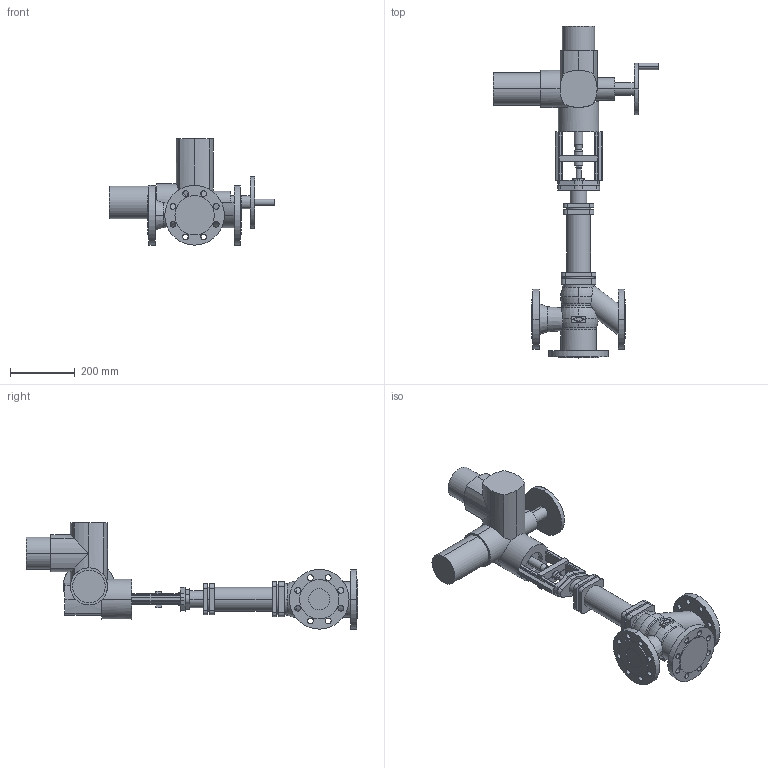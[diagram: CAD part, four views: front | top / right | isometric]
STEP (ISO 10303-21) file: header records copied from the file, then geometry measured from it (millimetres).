
FILE_DESCRIPTION(('OneSpaceDesigner STEP Export'),'2;1');
FILE_NAME('c000003208.stp','2007-01-25T12:00:27',(''),(''),'OneSpace Designer STEP processor for AP214 (Solid Model)','OneSpace Designer 14.00B 27-May-2006 (C) CoCreate Software GmbH','');
FILE_SCHEMA(('AUTOMOTIVE_DESIGN { 1 0 10303 214 1 1 1 1 }'));
Length unit declared in the file: millimetre
Products named in the file (2): 1; 2
Bounding box: 514 x 1029 x 329.5 mm (x, y, z)
Volume: 14499196.4 mm3; surface area: 872643.7 mm2
Topology: 2 solids, 2 shells, 361 faces, 944 edges, 610 vertices
Faces by surface type: cylinder 184, plane 151, torus 18, cone 8
Entity records: 10508 total; most frequent: CARTESIAN_POINT 2194, ORIENTED_EDGE 1888, DIRECTION 1534, EDGE_CURVE 944, VERTEX_POINT 610, AXIS2_PLACEMENT_3D 528, VECTOR 478, LINE 478
